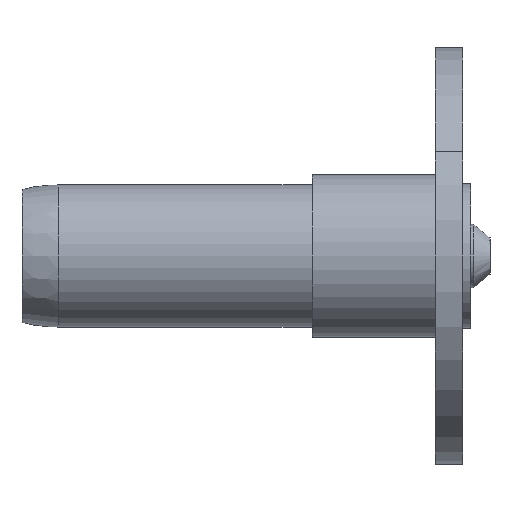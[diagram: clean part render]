
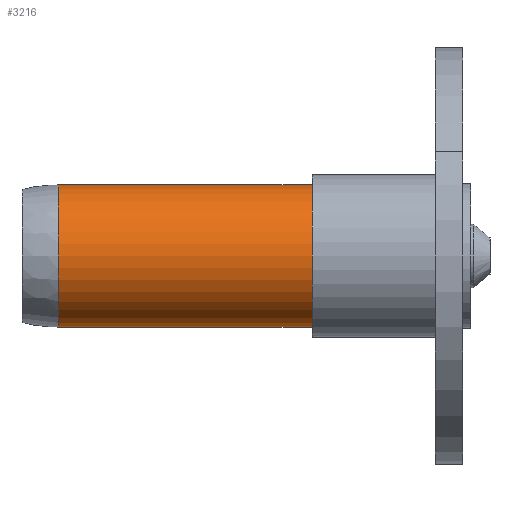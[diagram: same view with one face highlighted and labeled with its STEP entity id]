
A CAD part, front view. The second image highlights one B-rep face of the part: STEP entity #3216.
In plain terms, the highlighted cylindrical face has radius 12.446 mm (diameter 24.892 mm), a partial arc.
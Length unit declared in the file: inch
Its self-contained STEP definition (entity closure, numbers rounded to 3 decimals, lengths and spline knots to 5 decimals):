
#58 = DIRECTION ( 'NONE',  ( -1., 0., 0. ) ) ;
#1015 = LINE ( 'NONE', #9110, #4567 ) ;
#1272 = VERTEX_POINT ( 'NONE', #6250 ) ;
#1323 = EDGE_CURVE ( 'NONE', #1272, #5479, #6692, .T. ) ;
#1605 = CARTESIAN_POINT ( 'NONE',  ( -0.25, 0., 0. ) ) ;
#1632 = CIRCLE ( 'NONE', #6678, 0.49 ) ;
#1656 = EDGE_CURVE ( 'NONE', #9031, #5479, #8957, .T. ) ;
#1743 = AXIS2_PLACEMENT_3D ( 'NONE', #6992, #2705, #7724 ) ;
#2315 = EDGE_CURVE ( 'NONE', #2819, #1272, #1015, .T. ) ;
#2323 = DIRECTION ( 'NONE',  ( 0., 0., 1. ) ) ;
#2705 = DIRECTION ( 'NONE',  ( 1., 0., 0. ) ) ;
#2819 = VERTEX_POINT ( 'NONE', #3457 ) ;
#2919 = CARTESIAN_POINT ( 'NONE',  ( -2.25, 0., -0.49 ) ) ;
#3216 = ADVANCED_FACE ( 'NONE', ( #3339 ), #7118, .T. ) ;
#3329 = CARTESIAN_POINT ( 'NONE',  ( -2., 0., -0.49 ) ) ;
#3339 = FACE_OUTER_BOUND ( 'NONE', #3488, .T. ) ;
#3457 = CARTESIAN_POINT ( 'NONE',  ( -0.25, 0., 0.49 ) ) ;
#3488 = EDGE_LOOP ( 'NONE', ( #5465, #4127, #5372, #7371 ) ) ;
#4127 = ORIENTED_EDGE ( 'NONE', *, *, #4290, .T. ) ;
#4290 = EDGE_CURVE ( 'NONE', #9031, #2819, #1632, .T. ) ;
#4567 = VECTOR ( 'NONE', #4811, 39.37008 ) ;
#4811 = DIRECTION ( 'NONE',  ( -1., 0., 0. ) ) ;
#4831 = AXIS2_PLACEMENT_3D ( 'NONE', #8575, #5081, #8663 ) ;
#5081 = DIRECTION ( 'NONE',  ( -1., 0., 0. ) ) ;
#5372 = ORIENTED_EDGE ( 'NONE', *, *, #2315, .T. ) ;
#5465 = ORIENTED_EDGE ( 'NONE', *, *, #1656, .F. ) ;
#5479 = VERTEX_POINT ( 'NONE', #3329 ) ;
#6250 = CARTESIAN_POINT ( 'NONE',  ( -2., 0., 0.49 ) ) ;
#6590 = DIRECTION ( 'NONE',  ( -1., 0., 0. ) ) ;
#6662 = CARTESIAN_POINT ( 'NONE',  ( -0.25, 0., -0.49 ) ) ;
#6678 = AXIS2_PLACEMENT_3D ( 'NONE', #1605, #6590, #2323 ) ;
#6692 = CIRCLE ( 'NONE', #1743, 0.49 ) ;
#6992 = CARTESIAN_POINT ( 'NONE',  ( -2., 0., 0. ) ) ;
#7040 = VECTOR ( 'NONE', #58, 39.37008 ) ;
#7118 = CYLINDRICAL_SURFACE ( 'NONE', #4831, 0.49 ) ;
#7371 = ORIENTED_EDGE ( 'NONE', *, *, #1323, .T. ) ;
#7724 = DIRECTION ( 'NONE',  ( 0., 0., 1. ) ) ;
#8575 = CARTESIAN_POINT ( 'NONE',  ( -2.25, 0., 0. ) ) ;
#8663 = DIRECTION ( 'NONE',  ( 0., 0., 1. ) ) ;
#8957 = LINE ( 'NONE', #2919, #7040 ) ;
#9031 = VERTEX_POINT ( 'NONE', #6662 ) ;
#9110 = CARTESIAN_POINT ( 'NONE',  ( -2.25, 0., 0.49 ) ) ;
